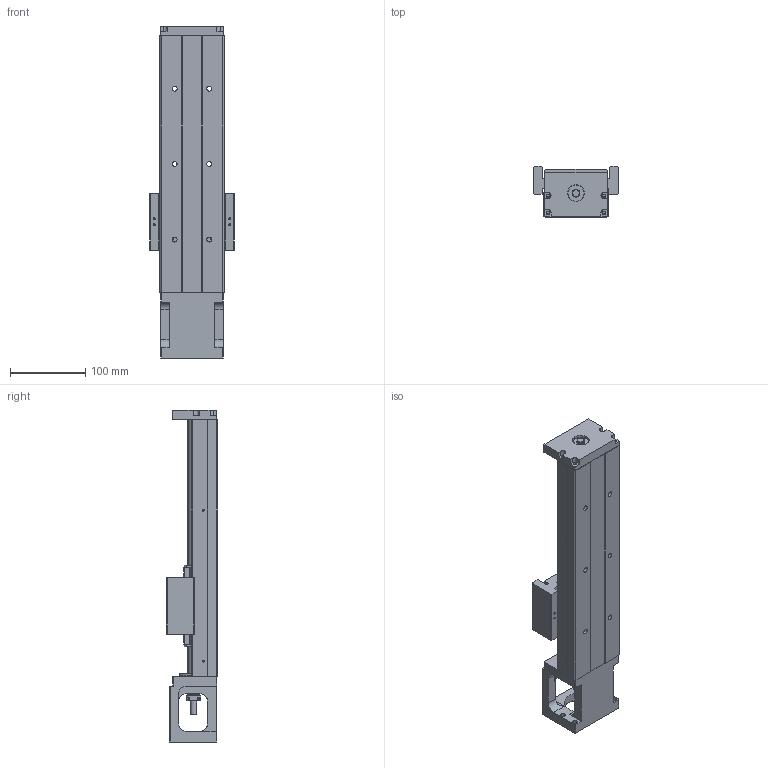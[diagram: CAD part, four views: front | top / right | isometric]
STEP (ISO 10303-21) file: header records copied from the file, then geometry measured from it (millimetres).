
FILE_DESCRIPTION(/* description */ (''),/* implementation_level */ '2;1');
FILE_NAME(/* name */ '46L-340.stp',/* time_stamp */ '2016-12-20T13:53:51+08:00',/* author */ (''),/* organization */ (''),/* preprocessor_version */ 'ST-DEVELOPER v11',/* originating_system */ 'SIEMENS UGS NX 6.0',/* authorisation */ '');
FILE_SCHEMA (('AUTOMOTIVE_DESIGN { 1 0 10303 214 1 1 1 1 }'));
Length unit declared in the file: millimetre
Products named in the file (1): model4
Bounding box: 112 x 68 x 440 mm (x, y, z)
Volume: 1196340.2 mm3; surface area: 246911 mm2
Topology: 6 solids, 14 shells, 640 faces, 1667 edges, 1099 vertices
Faces by surface type: plane 321, cylinder 225, cone 51, bspline 35, torus 8
Full cylindrical faces by diameter (mm): 2.11 x4, 2.15 x4, 2.42 x8, 2.5 x4, 3 x6, 3.2 x4, 3.3 x12, 3.4 x8, 4.2 x4, 4.5 x8, 5 x14, 6 x8, 6.35 x2, 6.6 x6, 8 x1, 9.6 x1, 10 x3, 11 x6, 12 x1, 14.95 x2, 15 x1, 16 x2, 22 x3, 27.5 x1, 44 x1, 50 x1
Entity records: 29683 total; most frequent: CARTESIAN_POINT 12384, ORIENTED_EDGE 2890, DIRECTION 2862, EDGE_CURVE 1445, AXIS2_PLACEMENT_3D 1039, VERTEX_POINT 1037, EDGE_LOOP 896, LINE 784
